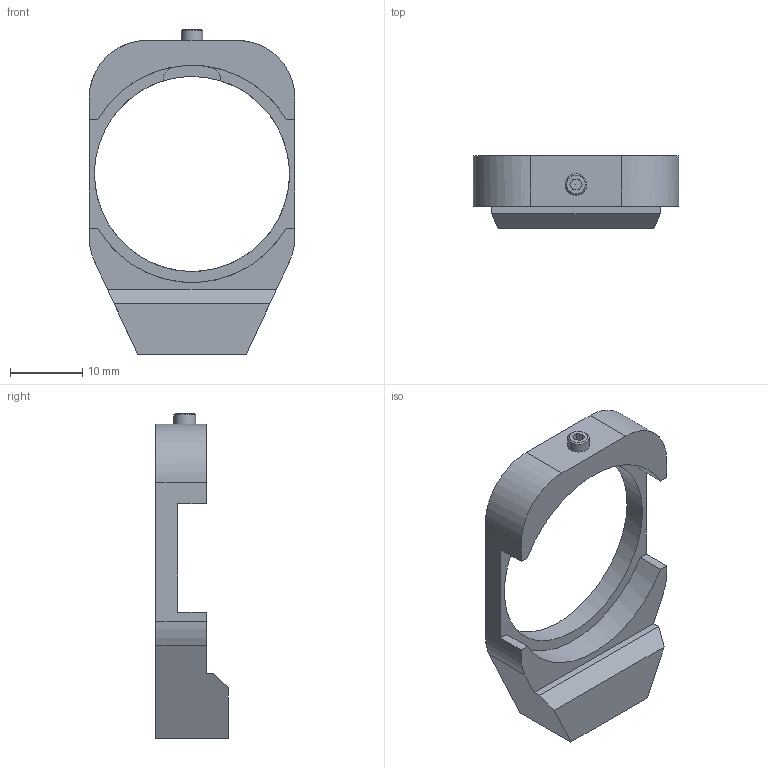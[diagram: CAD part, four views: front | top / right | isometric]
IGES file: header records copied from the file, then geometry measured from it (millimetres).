
Global section: file name: TLH-30-Dri-N; native system: Autodesk Inventor 2014; preprocessor: unknown; author: e.nonaka; date: 20141021.115457; units: millimetre
Bounding box: 28.5 x 10 x 45 mm (x, y, z)
Volume: 3574.5 mm3; surface area: 2670.4 mm2
Topology: 1 solids, 2 shells, 47 faces, 127 edges, 86 vertices
Faces by surface type: bspline 47
